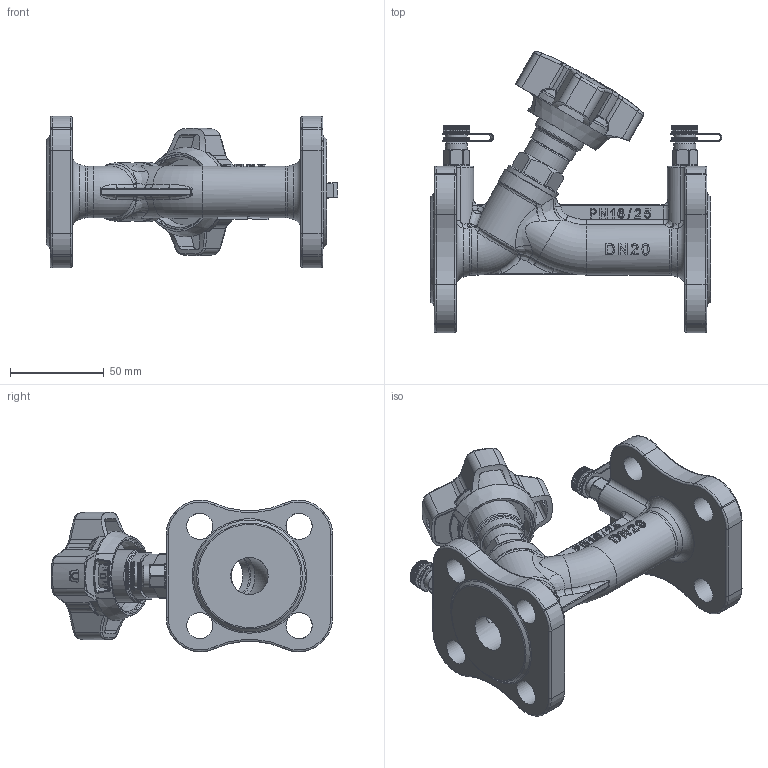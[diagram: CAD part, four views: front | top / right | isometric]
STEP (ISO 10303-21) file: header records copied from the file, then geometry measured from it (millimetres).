
FILE_DESCRIPTION(/* description */ ('STEP AP203'),/* implementation_level */ '2;1');
FILE_NAME(/* name */ 'RSV55 DN20.stp',/* time_stamp */ '2024-09-17T14:42:30+07:00',/* author */ ('Eva'),/* organization */ (''),/* preprocessor_version */ 'ST-DEVELOPER v20',/* originating_system */ 'Autodesk Inventor 2025',/* authorisation */ '');
FILE_SCHEMA (('AUTOMOTIVE_DESIGN { 1 0 10303 214 3 1 1 }'));
Products named in the file (10): CM0030002000 丹弗斯; CM003002001 丹弗斯; 20503-20-00-z 丹弗斯; 取压咀; 取压咀帽; 取压咀主体-30; 膨胀体; 橡胶扣; O 型圈; O 型圈 8x1
Assembly tree (10 placements, depth 3):
  CM0030002000 丹弗斯
    CM003002001 丹弗斯
    20503-20-00-z 丹弗斯
    取压咀  x2
      取压咀帽
      取压咀主体-30
      膨胀体
      橡胶扣
      O 型圈
      O 型圈 8x1
Bounding box: 155.78 x 150.39 x 80.98 mm (x, y, z)
Volume: 254223.3 mm3; surface area: 110833.1 mm2
Topology: 21 solids, 21 shells, 3457 faces, 9644 edges, 6348 vertices
Faces by surface type: plane 1611, bspline 708, cylinder 636, cone 266, torus 208, sphere 28
Full cylindrical faces by diameter (mm): 1.5 x4, 5 x2, 5.9 x1, 6 x3, 7.2 x1, 7.9 x2, 8 x4, 8.9 x10, 8.917 x8, 9 x2, 9.983 x6, 10 x17, 11.5 x12, 11.7 x4, 12.3 x1, 12.5 x2, 13.5 x4, 14 x10, 17.3 x1, 17.7 x1, 17.8 x1, 18 x1, 18.5 x1, 19 x1, 20 x4, 20.5 x1, 21 x2, 22 x1, 22.5 x1, 23.5 x1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
Entity records: 130678 total; most frequent: CARTESIAN_POINT 57953, ORIENTED_EDGE 16222, DIRECTION 13865, EDGE_CURVE 8111, VERTEX_POINT 5355, AXIS2_PLACEMENT_3D 4915, LINE 4035, VECTOR 4035
